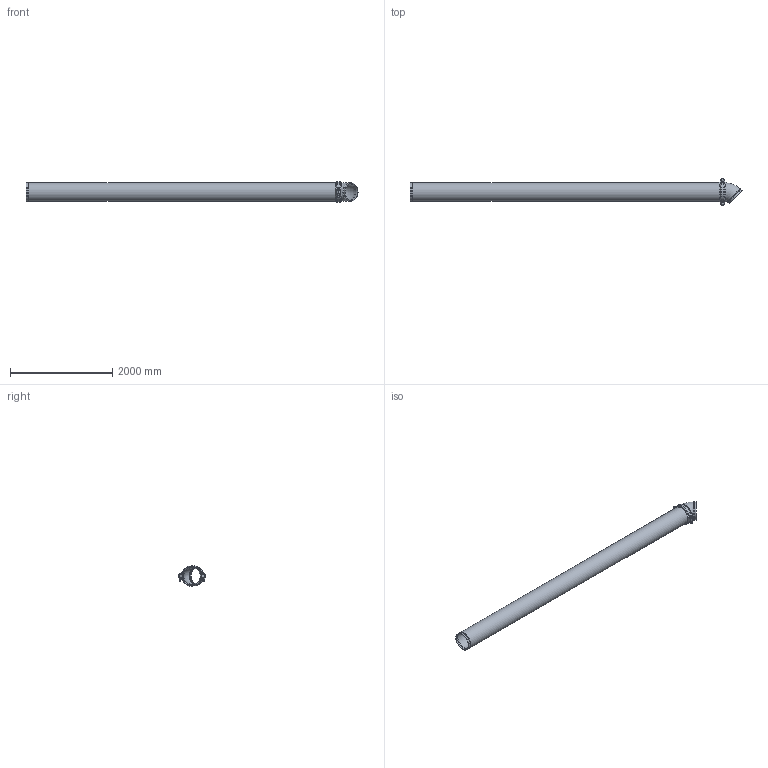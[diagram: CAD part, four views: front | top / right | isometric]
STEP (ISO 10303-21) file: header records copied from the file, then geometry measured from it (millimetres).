
FILE_DESCRIPTION(/* description */ ('VIC AGS LONG RUN FITTING No WR11 (AGS)','CAx-IF Rec.Pracs.---Representation and Presentation of Product Manufacturing Information (PMI)---4.0---2014-10-13'),/* implementation_level */ '2;1');
FILE_NAME(/* name */ 'C:\Users\Vjadhav\AppData\Roaming\Autodesk\ApplicationPlugins\Back Up\Victaulic_AGS_Long Run Fittings_No WR11 (AGS)\Victaulic_AGS_Long Run Fittings_No WR11 (AGS)_14 (350).stp',/* time_stamp */ '2020-10-14T15:37:25+05:00',/* author */ ('Vjadhav'),/* organization */ ('Victaulic'),/* preprocessor_version */ 'ST-DEVELOPER v17.2',/* originating_system */ 'Autodesk Inventor 2019',/* authorisation */ '');
FILE_SCHEMA (('AP242_MANAGED_MODEL_BASED_3D_ENGINEERING_MIM_LF { 1 0 10303 442 1 1 4 }'));
Length unit declared in the file: inch
Products named in the file (4): WR11-14.0; WR10-14.0; W07-14.0; W11-14.0
Assembly tree (3 placements, depth 2):
  WR11-14.0
    WR10-14.0
    W07-14.0
    W11-14.0
Bounding box: 6479.56 x 524 x 401.98 mm (x, y, z)
Volume: 71325364.7 mm3; surface area: 14368294.7 mm2
Topology: 3 solids, 5 shells, 119 faces, 334 edges, 237 vertices
Faces by surface type: plane 50, cylinder 41, torus 18, cone 8, sphere 2
Full cylindrical faces by diameter (mm): 25.4 x4, 42.85 x2, 323.596 x2, 330.2 x1, 336.55 x1, 342.9 x4, 355.6 x9
Entity records: 4622 total; most frequent: CARTESIAN_POINT 1057, DIRECTION 745, ORIENTED_EDGE 668, EDGE_CURVE 334, AXIS2_PLACEMENT_3D 301, VERTEX_POINT 237, CIRCLE 171, LINE 143
